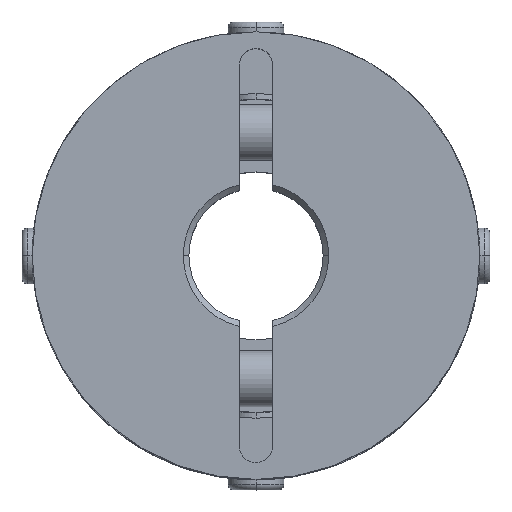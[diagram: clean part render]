
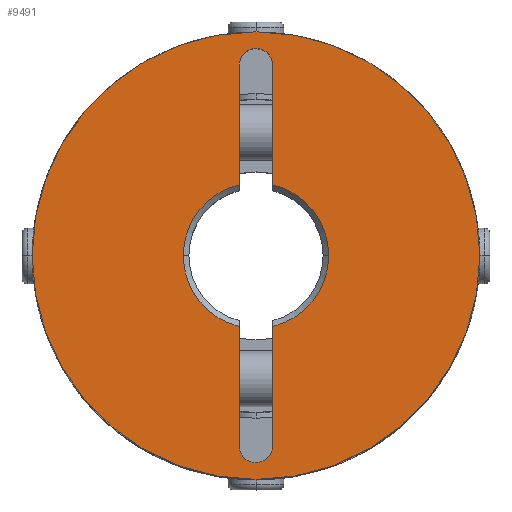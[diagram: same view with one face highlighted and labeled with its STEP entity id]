
A CAD part, top view. The second image highlights one B-rep face of the part: STEP entity #9491.
In plain terms, the highlighted planar face has unit normal (0, 0, 1).
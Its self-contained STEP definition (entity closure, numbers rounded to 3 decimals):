
#829=CARTESIAN_POINT('',(-20.0,0.,20.0));
#830=VERTEX_POINT('',#829);
#837=CARTESIAN_POINT('',(20.0,0.0,20.0));
#838=VERTEX_POINT('',#837);
#839=CARTESIAN_POINT('',(0.0,0.0,20.0));
#840=DIRECTION('',(0.0,0.0,-1.0));
#841=DIRECTION('',(1.0,0.0,0.0));
#842=AXIS2_PLACEMENT_3D('',#839,#840,#841);
#843=CIRCLE('',#842,20.0);
#844=EDGE_CURVE('',#830,#838,#843,.T.);
#1155=CARTESIAN_POINT('',(-1.061,18.061,20.0));
#1156=VERTEX_POINT('',#1155);
#1172=CARTESIAN_POINT('',(1.5,17.,20.0));
#1173=VERTEX_POINT('',#1172);
#1180=CARTESIAN_POINT('',(0.,17.,20.0));
#1181=DIRECTION('',(0.0,0.0,1.));
#1182=DIRECTION('',(0.707,0.707,0.0));
#1183=AXIS2_PLACEMENT_3D('',#1180,#1181,#1182);
#1184=CIRCLE('',#1183,1.5);
#1185=EDGE_CURVE('',#1173,#1156,#1184,.T.);
#1197=CARTESIAN_POINT('',(1.061,-18.061,20.0));
#1198=VERTEX_POINT('',#1197);
#1214=CARTESIAN_POINT('',(-1.5,-17.,20.0));
#1215=VERTEX_POINT('',#1214);
#1222=CARTESIAN_POINT('',(0.0,-17.,20.0));
#1223=DIRECTION('',(0.0,0.0,1.0));
#1224=DIRECTION('',(-0.707,-0.707,0.0));
#1225=AXIS2_PLACEMENT_3D('',#1222,#1223,#1224);
#1226=CIRCLE('',#1225,1.5);
#1227=EDGE_CURVE('',#1215,#1198,#1226,.T.);
#1237=CARTESIAN_POINT('',(-6.5,0.,20.0));
#1238=VERTEX_POINT('',#1237);
#1245=CARTESIAN_POINT('',(-1.5,-6.325,20.0));
#1246=VERTEX_POINT('',#1245);
#1247=CARTESIAN_POINT('',(0.0,0.0,20.0));
#1248=DIRECTION('',(0.0,0.0,1.0));
#1249=DIRECTION('',(-1.0,0.0,0.0));
#1250=AXIS2_PLACEMENT_3D('',#1247,#1248,#1249);
#1251=CIRCLE('',#1250,6.5);
#1252=EDGE_CURVE('',#1238,#1246,#1251,.T.);
#1276=CARTESIAN_POINT('',(6.5,0.,20.0));
#1277=VERTEX_POINT('',#1276);
#1284=CARTESIAN_POINT('',(1.5,6.325,20.0));
#1285=VERTEX_POINT('',#1284);
#1286=CARTESIAN_POINT('',(0.0,0.0,20.0));
#1287=DIRECTION('',(0.0,0.0,1.0));
#1288=DIRECTION('',(1.0,0.0,0.0));
#1289=AXIS2_PLACEMENT_3D('',#1286,#1287,#1288);
#1290=CIRCLE('',#1289,6.5);
#1291=EDGE_CURVE('',#1277,#1285,#1290,.T.);
#9296=CARTESIAN_POINT('',(-1.5,17.,20.0));
#9297=VERTEX_POINT('',#9296);
#9304=CARTESIAN_POINT('',(-1.5,6.325,20.0));
#9305=VERTEX_POINT('',#9304);
#9306=CARTESIAN_POINT('',(-1.5,6.325,20.0));
#9307=DIRECTION('',(0.0,1.0,0.0));
#9308=VECTOR('',#9307,10.675);
#9309=LINE('',#9306,#9308);
#9310=EDGE_CURVE('',#9305,#9297,#9309,.T.);
#9385=CARTESIAN_POINT('',(1.5,17.,20.0));
#9386=DIRECTION('',(0.0,-1.0,0.0));
#9387=VECTOR('',#9386,10.675);
#9388=LINE('',#9385,#9387);
#9389=EDGE_CURVE('',#1173,#1285,#9388,.T.);
#9407=CARTESIAN_POINT('',(1.5,-6.325,20.0));
#9408=VERTEX_POINT('',#9407);
#9422=CARTESIAN_POINT('',(0.0,0.0,20.0));
#9423=DIRECTION('',(0.0,0.0,1.0));
#9424=DIRECTION('',(1.0,0.0,0.0));
#9425=AXIS2_PLACEMENT_3D('',#9422,#9423,#9424);
#9426=CIRCLE('',#9425,6.5);
#9427=EDGE_CURVE('',#9408,#1277,#9426,.T.);
#9432=CARTESIAN_POINT('',(1.818,0.,20.0));
#9433=DIRECTION('',(0.0,0.0,1.0));
#9434=DIRECTION('',(1.0,0.0,0.0));
#9435=AXIS2_PLACEMENT_3D('',#9432,#9433,#9434);
#9436=PLANE('',#9435);
#9437=CARTESIAN_POINT('',(0.0,0.0,20.0));
#9438=DIRECTION('',(0.0,0.0,-1.0));
#9439=DIRECTION('',(1.0,0.0,0.0));
#9440=AXIS2_PLACEMENT_3D('',#9437,#9438,#9439);
#9441=CIRCLE('',#9440,20.0);
#9442=EDGE_CURVE('',#838,#830,#9441,.T.);
#9443=ORIENTED_EDGE('',*,*,#9442,.F.);
#9444=ORIENTED_EDGE('',*,*,#844,.F.);
#9445=EDGE_LOOP('',(#9443,#9444));
#9446=FACE_OUTER_BOUND('',#9445,.T.);
#9447=ORIENTED_EDGE('',*,*,#9427,.F.);
#9448=CARTESIAN_POINT('',(1.5,-17.,20.0));
#9449=VERTEX_POINT('',#9448);
#9450=CARTESIAN_POINT('',(1.5,-6.325,20.0));
#9451=DIRECTION('',(0.0,-1.0,0.0));
#9452=VECTOR('',#9451,10.675);
#9453=LINE('',#9450,#9452);
#9454=EDGE_CURVE('',#9408,#9449,#9453,.T.);
#9455=ORIENTED_EDGE('',*,*,#9454,.T.);
#9456=CARTESIAN_POINT('',(0.0,-17.,20.0));
#9457=DIRECTION('',(0.0,0.0,1.0));
#9458=DIRECTION('',(-0.707,-0.707,0.0));
#9459=AXIS2_PLACEMENT_3D('',#9456,#9457,#9458);
#9460=CIRCLE('',#9459,1.5);
#9461=EDGE_CURVE('',#1198,#9449,#9460,.T.);
#9462=ORIENTED_EDGE('',*,*,#9461,.F.);
#9463=ORIENTED_EDGE('',*,*,#1227,.F.);
#9464=CARTESIAN_POINT('',(-1.5,-17.,20.0));
#9465=DIRECTION('',(0.0,1.0,0.0));
#9466=VECTOR('',#9465,10.675);
#9467=LINE('',#9464,#9466);
#9468=EDGE_CURVE('',#1215,#1246,#9467,.T.);
#9469=ORIENTED_EDGE('',*,*,#9468,.T.);
#9470=ORIENTED_EDGE('',*,*,#1252,.F.);
#9471=CARTESIAN_POINT('',(0.0,0.0,20.0));
#9472=DIRECTION('',(0.0,0.0,1.0));
#9473=DIRECTION('',(-1.0,0.0,0.0));
#9474=AXIS2_PLACEMENT_3D('',#9471,#9472,#9473);
#9475=CIRCLE('',#9474,6.5);
#9476=EDGE_CURVE('',#9305,#1238,#9475,.T.);
#9477=ORIENTED_EDGE('',*,*,#9476,.F.);
#9478=ORIENTED_EDGE('',*,*,#9310,.T.);
#9479=CARTESIAN_POINT('',(0.,17.,20.0));
#9480=DIRECTION('',(0.0,0.0,1.));
#9481=DIRECTION('',(0.707,0.707,0.0));
#9482=AXIS2_PLACEMENT_3D('',#9479,#9480,#9481);
#9483=CIRCLE('',#9482,1.5);
#9484=EDGE_CURVE('',#1156,#9297,#9483,.T.);
#9485=ORIENTED_EDGE('',*,*,#9484,.F.);
#9486=ORIENTED_EDGE('',*,*,#1185,.F.);
#9487=ORIENTED_EDGE('',*,*,#9389,.T.);
#9488=ORIENTED_EDGE('',*,*,#1291,.F.);
#9489=EDGE_LOOP('',(#9447,#9455,#9462,#9463,#9469,#9470,#9477,#9478,#9485,#9486,#9487,#9488));
#9490=FACE_BOUND('',#9489,.T.);
#9491=ADVANCED_FACE('',(#9446,#9490),#9436,.T.);
